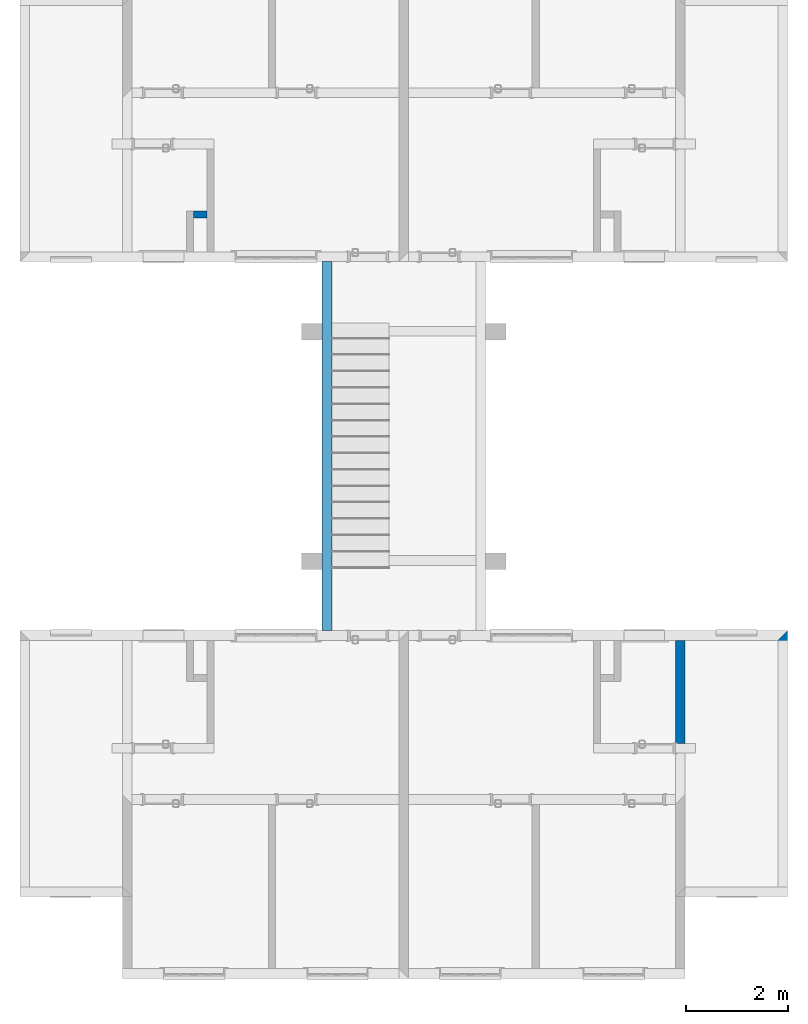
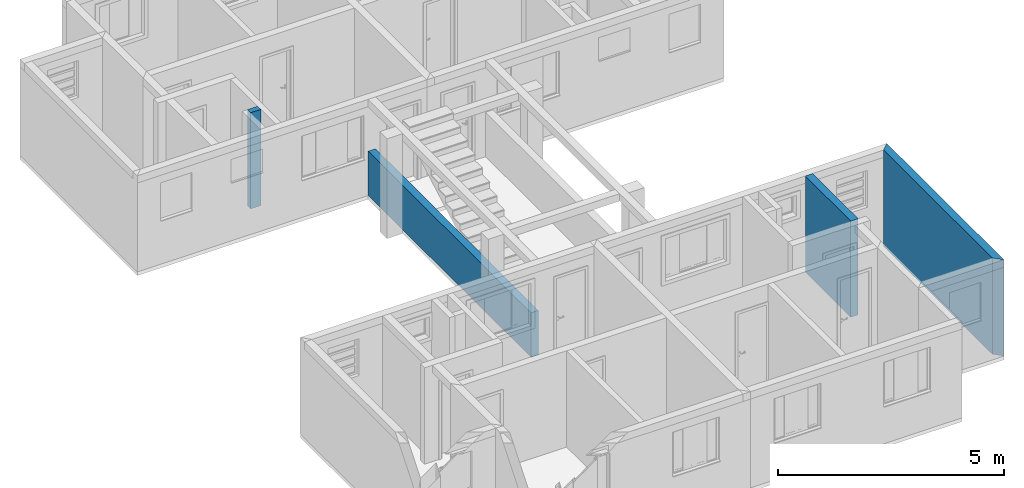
# One storey, part 25 of 47: 4 walls.
"""IFC2X3 building model written with IfcOpenShell, lengths in millimetres."""

from ifc_helpers import new_model, entity, si_unit, converted_unit, derived_unit, money_unit, direction, frame, origin_with_axes, place, context, subcontext, project, spatial, polyline, outline, extrude, material, layer, layer_set, layer_usage, type_object, element, save


model = new_model("IFC2X3")

# Units and contexts
model_context = context("Model", 3, precision=0.01, world=origin_with_axes(), true_north=direction((0.0, 1.0)))
body_context = subcontext(model_context, "Body", "Model", "MODEL_VIEW")
ifc_project = project(units=[si_unit("LENGTHUNIT", "METRE", prefix="MILLI"), si_unit("AREAUNIT", "SQUARE_METRE"), si_unit("VOLUMEUNIT", "CUBIC_METRE"), converted_unit("PLANEANGLEUNIT", "DEGREE", entity("IfcPlaneAngleMeasure", 0.0174532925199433), si_unit("PLANEANGLEUNIT", "RADIAN"), dimensions=[0, 0, 0, 0, 0, 0, 0]), money_unit("USD"), converted_unit("TIMEUNIT", "Year", entity("IfcTimeMeasure", 31557600.0), si_unit("TIMEUNIT", "SECOND"), dimensions=[0, 0, 1, 0, 0, 0, 0]), si_unit("MASSUNIT", "GRAM", prefix="KILO"), si_unit("THERMODYNAMICTEMPERATUREUNIT", "DEGREE_CELSIUS"), si_unit("LUMINOUSINTENSITYUNIT", "LUMEN"), si_unit("ENERGYUNIT", "JOULE", prefix="MEGA"), derived_unit("THERMALCONDUCTANCEUNIT", [(si_unit("POWERUNIT", "WATT"), 1), (si_unit("LENGTHUNIT", "METRE"), -1), (si_unit("THERMODYNAMICTEMPERATUREUNIT", "KELVIN"), -1)]), derived_unit("SPECIFICHEATCAPACITYUNIT", [(si_unit("ENERGYUNIT", "JOULE"), 1), (si_unit("MASSUNIT", "GRAM", prefix="KILO"), -1), (si_unit("THERMODYNAMICTEMPERATUREUNIT", "KELVIN"), -1)]), derived_unit("MASSDENSITYUNIT", [(si_unit("MASSUNIT", "GRAM", prefix="KILO"), 1), (si_unit("VOLUMEUNIT", "CUBIC_METRE"), -1)])], contexts=[model_context])

# Site, building, storey
site_placement = place(None, origin_with_axes())
site = spatial("IfcSite", under=ifc_project, at=site_placement, Name="Local", CompositionType="ELEMENT")
building_placement = place(site_placement, origin_with_axes())
building = spatial("IfcBuilding", under=site, at=building_placement, Name="Construção", CompositionType="ELEMENT")
storey_placement = place(building_placement, origin_with_axes())
storey = spatial("IfcBuildingStorey", under=building, at=storey_placement, Name="Pavimento Tipo", CompositionType="ELEMENT", Elevation=0.0)

# Walls
ifc_material_1 = material(Name="Concreto - Estrutural")
ifc_layer_1 = layer(ifc_material_1, 190.0, ventilated="UNKNOWN")
ifc_layer_set_1 = layer_set([ifc_layer_1], Name="Concreto - Estrutural 190")
ifc_layer_usage_1 = layer_usage(ifc_layer_set_1, "AXIS2", "POSITIVE", -190.0)
wall_type_1 = type_object("IfcWallType", Name="Concreto - Estrutural 190", PredefinedType="NOTDEFINED")
wall_1_placement = place(storey_placement, frame((6442.566997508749, 4996.981417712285, 0.0), z_axis=(0.0, 0.0, 1.0), x_axis=(0.0, -1.0, 0.0)))
element("IfcWallStandardCase", 1, at=wall_1_placement, inside=storey, type_object=wall_type_1, material=ifc_layer_usage_1, Name="Apartamento 4 - Parede-091", context=body_context, shape_type="SweptSolid", body=[
    extrude(outline(polyline([(0.0, -190.0000000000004), (2010.000000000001, -190.0000000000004), (2010.000000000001, 0.0), (0.0, 0.0), (0.0, -190.0000000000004)])), origin_with_axes(), (0.0, 0.0, 1.0), 2600.0),
])
ifc_layer_usage_2 = layer_usage(ifc_layer_set_1, "AXIS2", "POSITIVE", 0.0)
wall_2_placement = place(storey_placement, frame((8442.56699750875, -3.018582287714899, 0.0), z_axis=(0.0, 0.0, 1.0), x_axis=(0.0, 1.0, 0.0)))
element("IfcWallStandardCase", 2, at=wall_2_placement, inside=storey, type_object=wall_type_1, material=ifc_layer_usage_2, Name="Apartamento 4 - Parede-088", context=body_context, shape_type="SweptSolid", body=[
    extrude(outline(polyline([(0.0, 0.0), (5189.999999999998, 0.0), (4999.999999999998, 189.9999999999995), (189.9999999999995, 189.9999999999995), (0.0, 0.0)])), origin_with_axes(), (0.0, 0.0, 1.0), 2600.0),
])
ifc_layer_usage_3 = layer_usage(ifc_layer_set_1, "AXIS2", "NEGATIVE", 190.0)
wall_3_placement = place(storey_placement, frame((-647.4330024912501, 12396.98141771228, 0.0), z_axis=(0.0, 0.0, 1.0), x_axis=(0.0, -1.0, 0.0)))
element("IfcWallStandardCase", 3, at=wall_3_placement, inside=storey, type_object=wall_type_1, material=ifc_layer_usage_3, Name="Núcleo - Parede-003", context=body_context, shape_type="SweptSolid", body=[
    extrude(outline(polyline([(0.0, 0.0), (7210.0, 0.0), (7210.0, 190.0), (0.0, 190.0), (0.0, 0.0)])), origin_with_axes(), (0.0, 0.0, 1.0), 1200.0),
])
ifc_material_2 = material(Name="Concreto")
ifc_layer_2 = layer(ifc_material_2, 140.0, ventilated="UNKNOWN")
ifc_layer_set_2 = layer_set([ifc_layer_2], Name="Concreto 140")
ifc_layer_usage_4 = layer_usage(ifc_layer_set_2, "AXIS2", "POSITIVE", -140.0)
wall_type_2 = type_object("IfcWallType", Name="Concreto 140", PredefinedType="NOTDEFINED")
wall_4_placement = place(storey_placement, frame((-3157.433002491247, 13386.98141771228, 0.0), z_axis=(0.0, 0.0, 1.0), x_axis=(1.0, 0.0, 0.0)))
element("IfcWallStandardCase", 4, at=wall_4_placement, inside=storey, type_object=wall_type_2, material=ifc_layer_usage_4, Name="Apartamento 2 - Parede-097", context=body_context, shape_type="SweptSolid", body=[
    extrude(outline(polyline([(0.0, -140.0000000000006), (259.999999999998, -140.0000000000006), (259.999999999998, 0.0), (0.0, 0.0), (0.0, -140.0000000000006)])), origin_with_axes(), (0.0, 0.0, 1.0), 2600.0),
])

save(model, "model.ifc")
